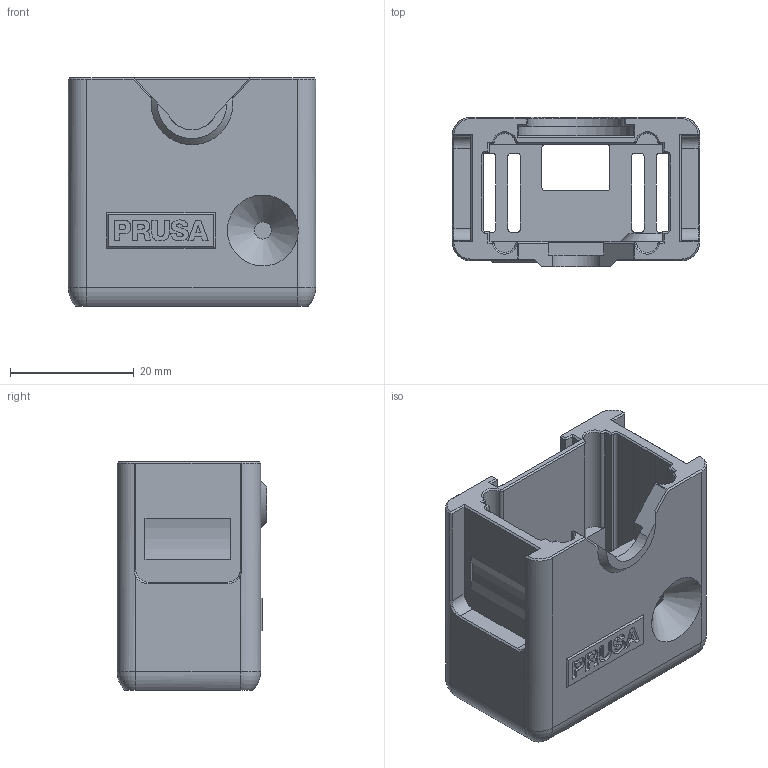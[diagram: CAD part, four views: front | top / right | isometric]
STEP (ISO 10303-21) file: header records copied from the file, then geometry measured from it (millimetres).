
FILE_DESCRIPTION(/* description */ ('STEP AP242','CAx-IF Rec.Pracs.---Representation and Presentation of Product Manufacturing Information (PMI)---4.0---2014-10-13','CAx-IF Rec.Pracs.---3D Tessellated Geometry---0.4---2014-09-14','2;1'),/* implementation_level */ '2;1');
FILE_NAME(/* name */ '66a0c9094748fe6d1b70aec4',/* time_stamp */ '2024-07-24T09:27:38Z',/* author */ (''),/* organization */ (''),/* preprocessor_version */ 'ST-DEVELOPER v20',/* originating_system */ ' ',/* authorisation */ ' ');
FILE_SCHEMA (('AP242_MANAGED_MODEL_BASED_3D_ENGINEERING_MIM_LF { 1 0 10303 442 1 1 4 }'));
Length unit declared in the file: metre
Products named in the file (1): ESP32_Cam_Case_Bottom_Part
Bounding box: 40 x 24.2 x 36.96 mm (x, y, z)
Volume: 13289.2 mm3; surface area: 9749.7 mm2
Topology: 1 solids, 1 shells, 377 faces, 950 edges, 582 vertices
Faces by surface type: plane 240, cylinder 49, cone 48, bspline 36, torus 4
Entity records: 11334 total; most frequent: CARTESIAN_POINT 2518, ORIENTED_EDGE 1896, DIRECTION 1682, EDGE_CURVE 948, LINE 692, VECTOR 692, VERTEX_POINT 581, AXIS2_PLACEMENT_3D 495
